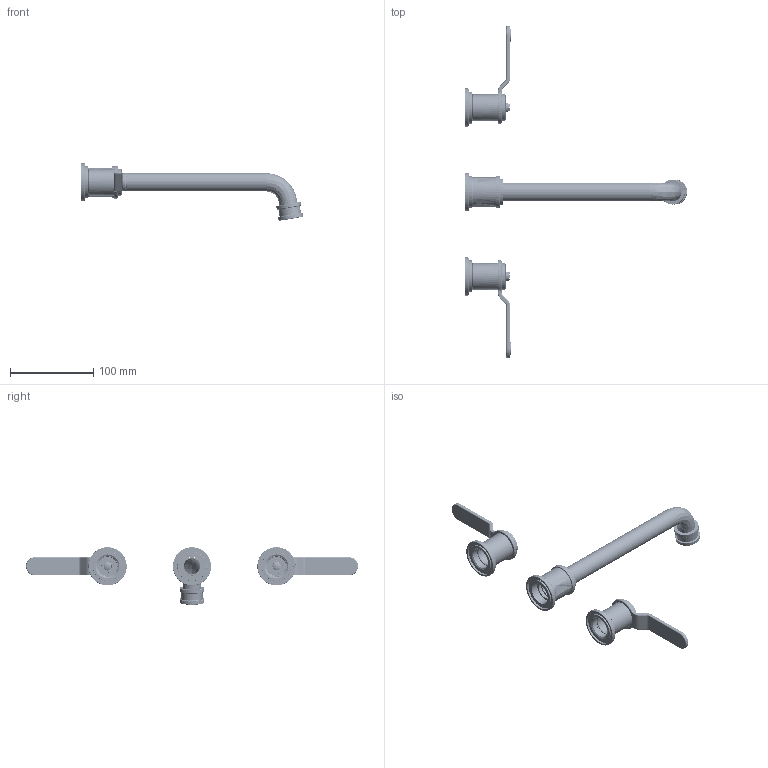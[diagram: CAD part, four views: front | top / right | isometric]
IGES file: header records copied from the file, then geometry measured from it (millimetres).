
Start section: SolidWorks IGES file using analytic representation for surfaces
Global section: file name: C:\Users\exiao\Documents\Echo's Local Files\001 Work\241016 ADHOC-02509\U.TAR06W3\U.TAR06W3SERIES.IGS; native system: SolidWorks 2023; preprocessor: SolidWorks 2023; author: exiao; date: 241017.094726; units: millimetre
Bounding box: 267.35 x 399 x 69.26 mm (x, y, z)
Surface area: 102072 mm2 (no closed solid volume)
Topology: 0 solids, 0 shells, 6073 faces, 54209 edges, 54197 vertices
Faces by surface type: revolution 3439, bspline 2634
